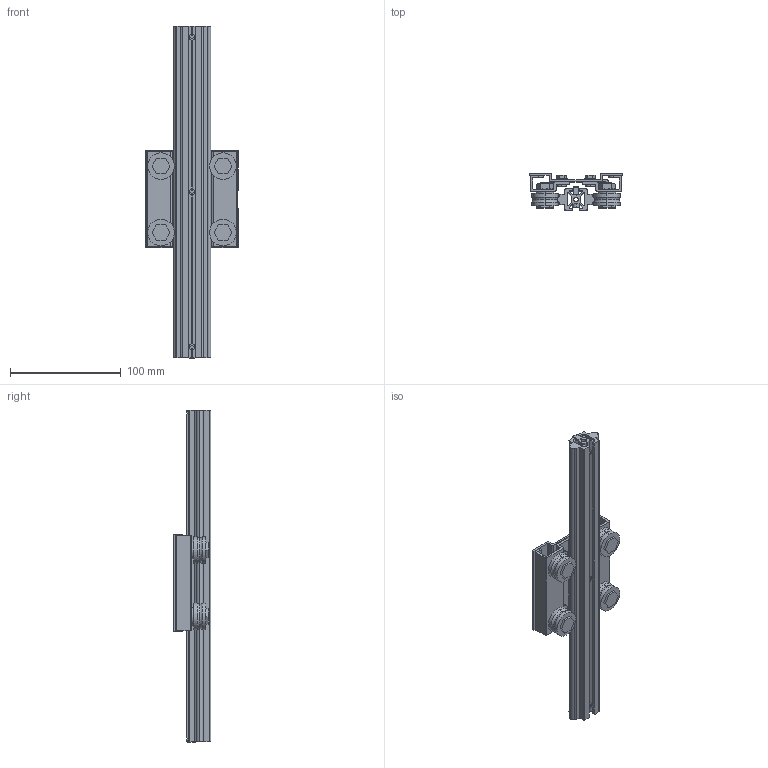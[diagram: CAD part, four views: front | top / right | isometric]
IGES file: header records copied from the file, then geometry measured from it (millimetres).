
Start section: SolidWorks IGES file using analytic representation for surfaces
Global section: file name: C:\Users\tsuch\OneDrive\デスクトップ\(作業中)LSR資料\LSR2020B.IGS; native system: SolidWorks 2019; preprocessor: SolidWorks 2019; author: tsuch; date: 200623.131402; units: millimetre
Bounding box: 84 x 34 x 300.02 mm (x, y, z)
Volume: 168102.7 mm3; surface area: 113309.2 mm2
Topology: 7 solids, 7 shells, 511 faces, 1303 edges, 828 vertices
Faces by surface type: plane 284, revolution 227
